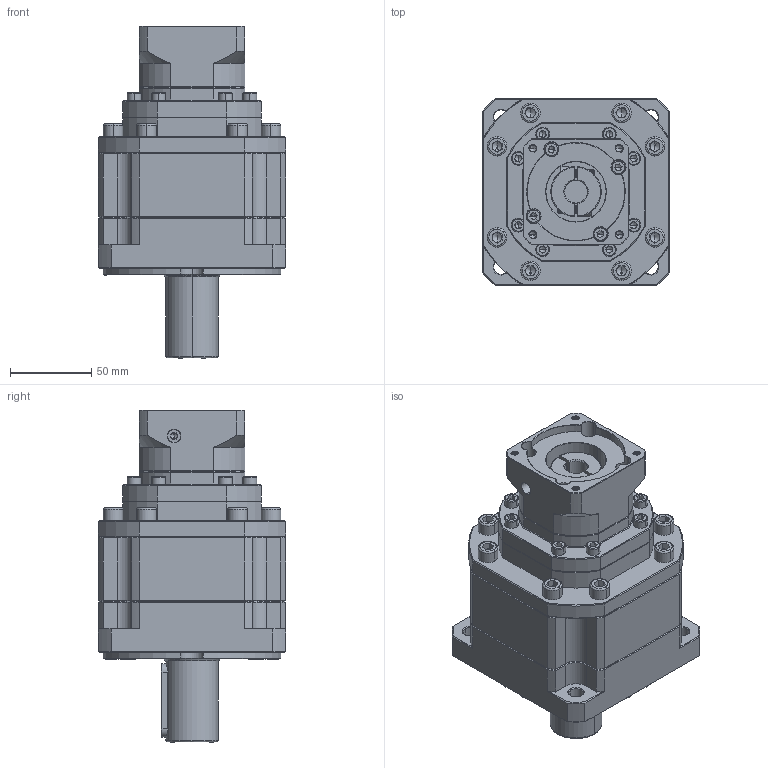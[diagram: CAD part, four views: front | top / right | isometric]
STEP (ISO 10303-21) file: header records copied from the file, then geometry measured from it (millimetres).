
FILE_DESCRIPTION (( 'STEP AP214' ), '1' );
FILE_NAME ('ZB115A-D32-L3-14-60-75-M5.step', '2023-03-03T09:56:05', ( '' ), ( 'Microsoft' ), 'SwSTEP 2.0', 'SolidWorks 2016', '' );
FILE_SCHEMA (( 'AUTOMOTIVE_DESIGN' ));
Length unit declared in the file: millimetre
Products named in the file (1): ZB115A-D32-L3-14-60-75-M5
Bounding box: 115 x 115 x 204 mm (x, y, z)
Volume: 1306336.9 mm3; surface area: 122848.7 mm2
Topology: 7 solids, 7 shells, 2290 faces, 5953 edges, 3768 vertices
Faces by surface type: plane 1126, cylinder 449, cone 348, bspline 345, torus 22
Entity records: 117765 total; most frequent: CARTESIAN_POINT 39381, ORIENTED_EDGE 11782, DIRECTION 9857, EDGE_CURVE 5891, VERTEX_POINT 3768, VECTOR 3661, LINE 3661, AXIS2_PLACEMENT_3D 3098
